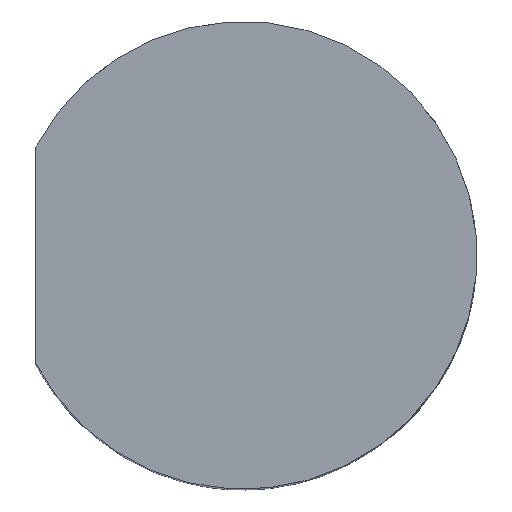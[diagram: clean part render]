
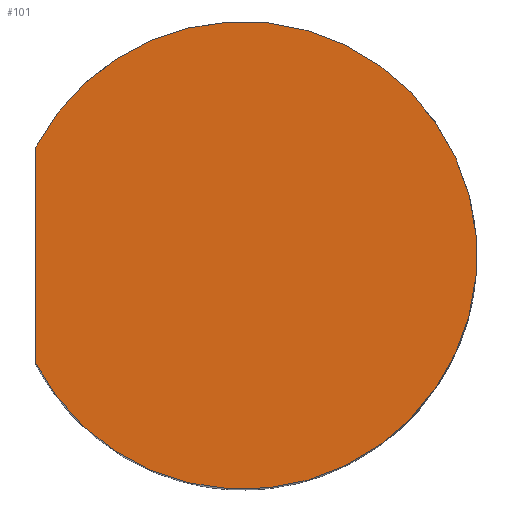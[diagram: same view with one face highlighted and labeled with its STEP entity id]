
A CAD part, top view. The second image highlights one B-rep face of the part: STEP entity #101.
In plain terms, the highlighted planar face has unit normal (0, 0, 1).
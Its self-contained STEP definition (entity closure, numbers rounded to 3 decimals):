
#18=PLANE('',#125);
#24=FACE_OUTER_BOUND('',#30,.T.);
#30=EDGE_LOOP('',(#92,#93));
#34=CIRCLE('',#119,2.025);
#42=LINE('',#229,#49);
#49=VECTOR('',#150,10.);
#51=VERTEX_POINT('',#158);
#57=VERTEX_POINT('',#220);
#65=EDGE_CURVE('',#51,#57,#34,.T.);
#69=EDGE_CURVE('',#57,#51,#42,.T.);
#92=ORIENTED_EDGE('',*,*,#65,.T.);
#93=ORIENTED_EDGE('',*,*,#69,.T.);
#101=ADVANCED_FACE('',(#24),#18,.T.);
#119=AXIS2_PLACEMENT_3D('',#222,#138,#139);
#125=AXIS2_PLACEMENT_3D('',#231,#153,#154);
#138=DIRECTION('center_axis',(0.,0.,1.));
#139=DIRECTION('ref_axis',(-1.,0.,0.));
#150=DIRECTION('',(0.,-1.,0.));
#153=DIRECTION('center_axis',(0.,0.,1.));
#154=DIRECTION('ref_axis',(1.,0.,0.));
#158=CARTESIAN_POINT('',(-1.799,-0.929,-3.55));
#220=CARTESIAN_POINT('',(-1.799,0.929,-3.55));
#222=CARTESIAN_POINT('Origin',(0.,0.,-3.55));
#229=CARTESIAN_POINT('',(-1.799,0.,-3.55));
#231=CARTESIAN_POINT('Origin',(0.,0.,
-3.55));
